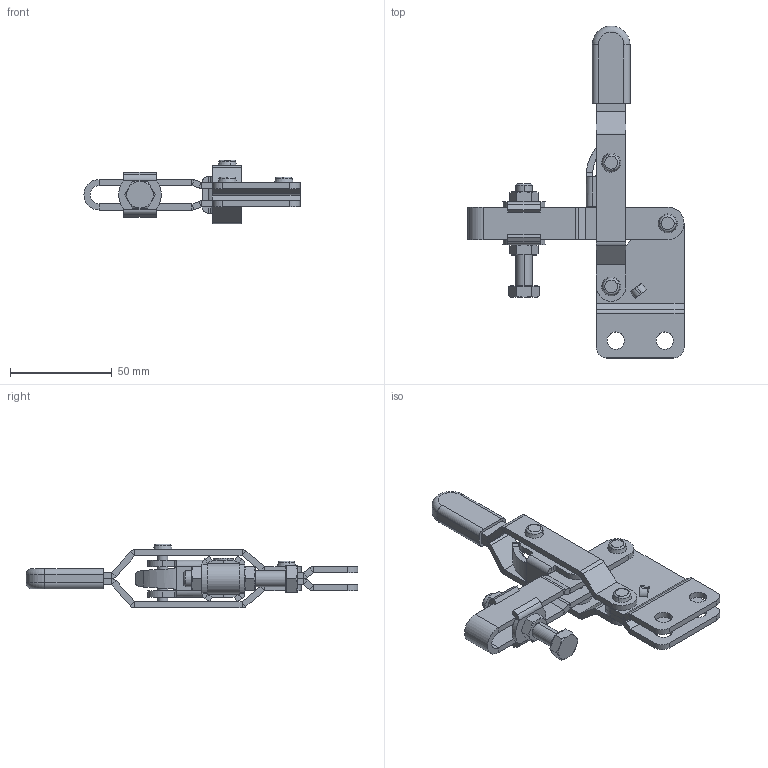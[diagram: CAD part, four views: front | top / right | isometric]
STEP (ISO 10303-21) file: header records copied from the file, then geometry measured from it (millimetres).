
FILE_DESCRIPTION (( 'STEP AP214' ), '1' );
FILE_NAME ('ISK-42K0_AssyT1.STEP', '2023-02-10T06:23:15', ( '' ), ( '' ), 'SwSTEP 2.0', 'SolidWorks 2020', '' );
FILE_SCHEMA (( 'AUTOMOTIVE_DESIGN' ));
Length unit declared in the file: millimetre
Products named in the file (13): Base-R; cone head semi-tubuler rivets gb_GB_OTHERRIVETS_TYPE89 5X28; Base-L; Grip; cone head semi-tubuler rivets gb_GB_OTHERRIVETS_TYPE89 5X12; Link; continuous thread hexagon head bolt_c_jis_JIS B 1180 Continuous thread hexagon head bolt C M8 x 50 --WN; Arm; ISK-42K0_AssyT1; thin head semi-tubular rivets gb_GB_CONNECTING_PIECE_RIVET_THSR 5X18; hexagon nut_3 small_jis_JIS B 1181 Small hexagon nut - Class 3 Finished M8 --N; Handle; Washer_D8-15
Assembly tree (16 placements, depth 2):
  ISK-42K0_AssyT1
    Base-R
    Base-L
    Handle  x2
    Link
    Arm
    Grip
    Washer_D8-15  x2
    continuous thread hexagon head bolt_c_jis_JIS B 1180 Continuous thread hexagon head bolt C M8 x 50 --WN
    hexagon nut_3 small_jis_JIS B 1181 Small hexagon nut - Class 3 Finished M8 --N  x2
    cone head semi-tubuler rivets gb_GB_OTHERRIVETS_TYPE89 5X12  x2
    cone head semi-tubuler rivets gb_GB_OTHERRIVETS_TYPE89 5X28
    thin head semi-tubular rivets gb_GB_CONNECTING_PIECE_RIVET_THSR 5X18
Bounding box: 106 x 162.8 x 31.2 mm (x, y, z)
Volume: 51624.7 mm3; surface area: 44107.2 mm2
Topology: 16 solids, 16 shells, 470 faces, 1030 edges, 593 vertices
Faces by surface type: plane 247, cylinder 145, cone 54, torus 18, bspline 4, sphere 2
Entity records: 10644 total; most frequent: CARTESIAN_POINT 2044, DIRECTION 1782, ORIENTED_EDGE 1576, EDGE_CURVE 788, AXIS2_PLACEMENT_3D 671, VERTEX_POINT 461, LINE 440, VECTOR 440
